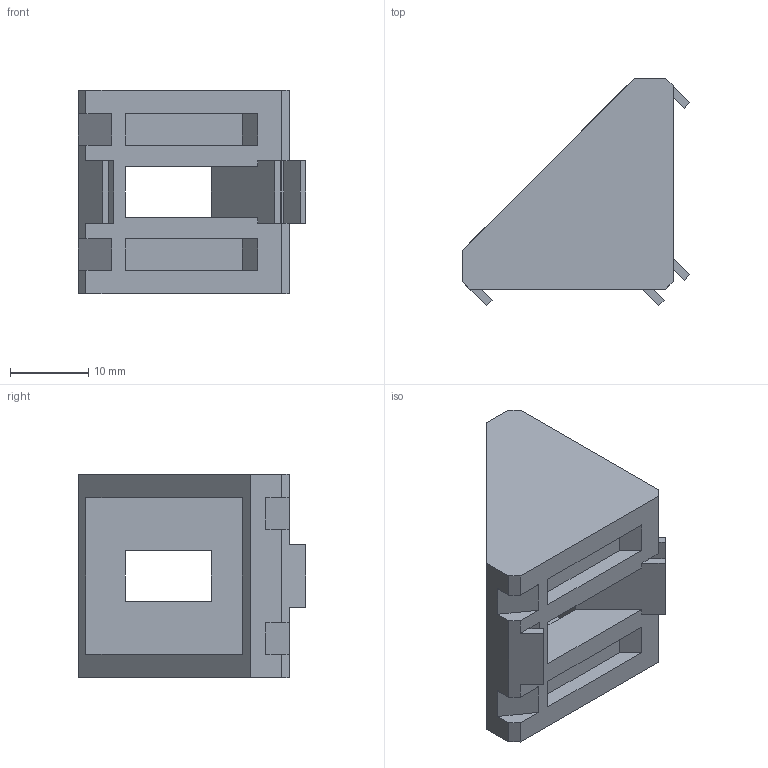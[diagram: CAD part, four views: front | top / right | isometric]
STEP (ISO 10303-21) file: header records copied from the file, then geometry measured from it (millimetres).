
FILE_DESCRIPTION(/* description */ ('Squadretta con centraggio cava 8 per profilo serie 30'),/* implementation_level */ '2;1');
FILE_NAME(/* name */ 'C:\omnitec\Desktop\Connessione PCE\SQ26-27D8.stp',/* time_stamp */ '2021-02-19T08:28:14+01:00',/* author */ ('omnitec'),/* organization */ ('Microsoft'),/* preprocessor_version */ 'ST-DEVELOPER v18.1',/* originating_system */ 'Autodesk Inventor 2021',/* authorisation */ '');
FILE_SCHEMA (('AUTOMOTIVE_DESIGN { 1 0 10303 214 3 1 1 }'));
Length unit declared in the file: millimetre
Products named in the file (1): SQ26-27D8
Bounding box: 29.12 x 29.12 x 26 mm (x, y, z)
Volume: 6918.2 mm3; surface area: 4776.9 mm2
Topology: 1 solids, 1 shells, 90 faces, 247 edges, 162 vertices
Faces by surface type: plane 90
Entity records: 2836 total; most frequent: CARTESIAN_POINT 500, ORIENTED_EDGE 494, DIRECTION 429, LINE 247, VECTOR 247, EDGE_CURVE 247, VERTEX_POINT 162, EDGE_LOOP 97
